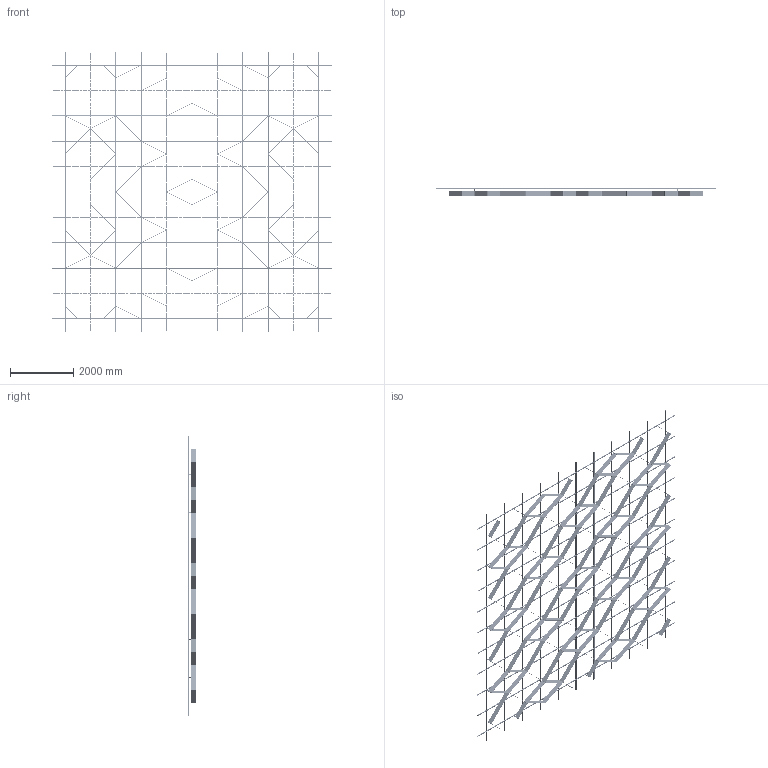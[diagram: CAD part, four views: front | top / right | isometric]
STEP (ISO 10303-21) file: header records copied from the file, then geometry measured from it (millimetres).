
FILE_DESCRIPTION (( 'STEP AP214' ), '1' );
FILE_NAME ('OPT_Var14.STEP', '2024-04-26T06:49:42', ( '' ), ( '' ), 'SwSTEP 2.0', 'SolidWorks 2020', '' );
FILE_SCHEMA (( 'AUTOMOTIVE_DESIGN' ));
Length unit declared in the file: millimetre
Products named in the file (5): SS.SEMA.2400 - Ñèìà-ïðîôèëü; Ñèñòåìà â çîíå 8000õ8000; OPT_Var14; Varp14; SS.SEMA.2400 - Ñèìà-ïðîôèëü — îáðåçàí 1600
Assembly tree (90 placements, depth 3):
  OPT_Var14
    Ñèñòåìà â çîíå 8000õ8000
      SS.SEMA.2400 - Ñèìà-ïðîôèëü  x66
      SS.SEMA.2400 - Ñèìà-ïðîôèëü — îáðåçàí 1600  x22
    Varp14
Bounding box: 8800 x 253 x 8800 mm (x, y, z)
Volume: 170335456.5 mm3; surface area: 72862150.1 mm2
Topology: 580 solids, 580 shells, 19308 faces, 53036 edges, 34888 vertices
Faces by surface type: cylinder 12562, plane 6746
Entity records: 86693 total; most frequent: CARTESIAN_POINT 25938, ORIENTED_EDGE 12920, DIRECTION 7970, EDGE_CURVE 6460, VERTEX_POINT 4296, B_SPLINE_CURVE_WITH_KNOTS 4064, AXIS2_PLACEMENT_3D 3736, EDGE_LOOP 3314
